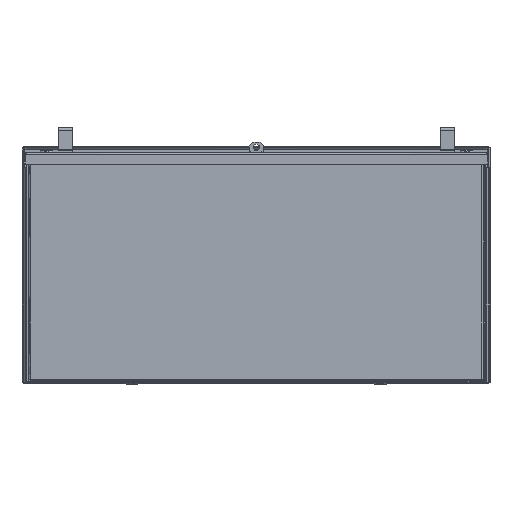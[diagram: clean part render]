
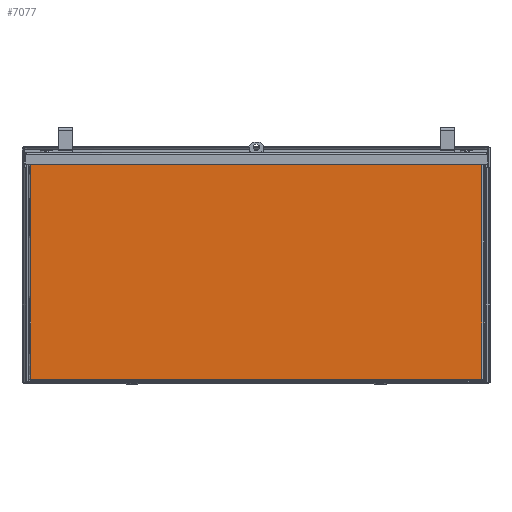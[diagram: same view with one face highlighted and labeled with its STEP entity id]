
A CAD part, front view. The second image highlights one B-rep face of the part: STEP entity #7077.
In plain terms, the highlighted free-form (B-spline) face has degree [1, 1] with [2, 2] control points.
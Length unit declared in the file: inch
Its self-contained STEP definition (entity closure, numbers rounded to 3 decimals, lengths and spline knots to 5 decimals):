
#5914=CARTESIAN_POINT('V66',(0.445,-0.055,
   11.77));
#5915=VERTEX_POINT('V66',#5914);
#5916=CARTESIAN_POINT('V91',(0.445,-0.055,
   11.81));
#5917=VERTEX_POINT('V91',#5916);
#5918=CARTESIAN_POINT('E111',(0.445,-0.055,
   11.77));
#5919=CARTESIAN_POINT('E111',(0.445,-0.055,
   11.81));
#5920=QUASI_UNIFORM_CURVE('E111',1,(#5918,#5919),.POLYLINE_FORM.,.F.,
   .U.);
#5921=EDGE_CURVE('E111',#5915,#5917,#5920,.T.);
#6062=CARTESIAN_POINT('V51',(0.06,-0.055,
   0.06));
#6063=VERTEX_POINT('V51',#6062);
#6077=CARTESIAN_POINT('V59',(0.06,-0.055,
   11.81));
#6078=VERTEX_POINT('V59',#6077);
#6079=CARTESIAN_POINT('E73',(0.06,-0.055,
   0.06));
#6080=CARTESIAN_POINT('E73',(0.06,-0.055,
   11.81));
#6081=QUASI_UNIFORM_CURVE('E73',1,(#6079,#6080),.POLYLINE_FORM.,.F.,
   .U.);
#6082=EDGE_CURVE('E73',#6063,#6078,#6081,.T.);
#6248=CARTESIAN_POINT('V92',(23.305,-0.055,
   11.81));
#6249=VERTEX_POINT('V92',#6248);
#6257=CARTESIAN_POINT('V67',(23.305,-0.055,
   11.77));
#6258=VERTEX_POINT('V67',#6257);
#6272=CARTESIAN_POINT('E114',(23.305,-0.055,
   11.81));
#6273=CARTESIAN_POINT('E114',(23.305,-0.055,
   11.77));
#6274=QUASI_UNIFORM_CURVE('E114',1,(#6272,#6273),.POLYLINE_FORM.,.F.,
   .U.);
#6275=EDGE_CURVE('E114',#6249,#6258,#6274,.T.);
#6293=CARTESIAN_POINT('V57',(23.69,-0.055,
   11.81));
#6294=VERTEX_POINT('V57',#6293);
#6295=CARTESIAN_POINT('E113',(23.69,-0.055,
   11.81));
#6296=CARTESIAN_POINT('E113',(23.305,-0.055,
   11.81));
#6297=QUASI_UNIFORM_CURVE('E113',1,(#6295,#6296),.POLYLINE_FORM.,.F.,
   .U.);
#6298=EDGE_CURVE('E113',#6294,#6249,#6297,.T.);
#6435=CARTESIAN_POINT('V50',(23.69,-0.055,
   0.06));
#6436=VERTEX_POINT('V50',#6435);
#6437=CARTESIAN_POINT('E70',(23.69,-0.055,
   11.81));
#6438=CARTESIAN_POINT('E70',(23.69,-0.055,
   0.06));
#6439=QUASI_UNIFORM_CURVE('E70',1,(#6437,#6438),.POLYLINE_FORM.,.F.,
   .U.);
#6440=EDGE_CURVE('E70',#6294,#6436,#6439,.T.);
#6517=CARTESIAN_POINT('E63',(23.69,-0.055,
   0.06));
#6518=CARTESIAN_POINT('E63',(0.06,-0.055,
   0.06));
#6519=QUASI_UNIFORM_CURVE('E63',1,(#6517,#6518),.POLYLINE_FORM.,.F.,
   .U.);
#6520=EDGE_CURVE('E63',#6436,#6063,#6519,.T.);
#6818=CARTESIAN_POINT('E112',(0.445,-0.055,
   11.81));
#6819=CARTESIAN_POINT('E112',(0.06,-0.055,
   11.81));
#6820=QUASI_UNIFORM_CURVE('E112',1,(#6818,#6819),.POLYLINE_FORM.,.F.,
   .U.);
#6821=EDGE_CURVE('E112',#5917,#6078,#6820,.T.);
#7012=CARTESIAN_POINT('V65',(11.422,-0.055,
   11.77));
#7013=VERTEX_POINT('V65',#7012);
#7014=CARTESIAN_POINT('E80',(11.422,-0.055,
   11.77));
#7015=CARTESIAN_POINT('E80',(0.445,-0.055,
   11.77));
#7016=QUASI_UNIFORM_CURVE('E80',1,(#7014,#7015),.POLYLINE_FORM.,.F.,
   .U.);
#7017=EDGE_CURVE('E80',#7013,#5915,#7016,.T.);
#7036=CARTESIAN_POINT('F29',(23.69,-0.055,
   0.06));
#7037=CARTESIAN_POINT('F29',(23.69,-0.055,
   11.81));
#7038=CARTESIAN_POINT('F29',(0.06,-0.055,
   0.06));
#7039=CARTESIAN_POINT('F29',(0.06,-0.055,
   11.81));
#7040=B_SPLINE_SURFACE_WITH_KNOTS('F29',1,1,((#7036,#7038),(#7037,
   #7039)),.PLANE_SURF.,.F.,.F.,.U.,(2,2),(2,2),(
   0.0001,0.9999),(0.0001,
   2.01076),.UNSPECIFIED.);
#7041=CARTESIAN_POINT('V89',(12.328,-0.055,
   11.769));
#7042=VERTEX_POINT('V89',#7041);
#7043=CARTESIAN_POINT('V90',(11.422,-0.055,
   11.769));
#7044=VERTEX_POINT('V90',#7043);
#7045=CARTESIAN_POINT('E109',(12.328,-0.055,
   11.769));
#7046=CARTESIAN_POINT('E109',(11.422,-0.055,
   11.769));
#7047=QUASI_UNIFORM_CURVE('E109',1,(#7045,#7046),.POLYLINE_FORM.,.F.,
   .U.);
#7048=EDGE_CURVE('E109',#7042,#7044,#7047,.T.);
#7049=ORIENTED_EDGE('E109',*,*,#7048,.T.);
#7050=CARTESIAN_POINT('E110',(11.422,-0.055,
   11.769));
#7051=CARTESIAN_POINT('E110',(11.422,-0.055,
   11.77));
#7052=QUASI_UNIFORM_CURVE('E110',1,(#7050,#7051),.POLYLINE_FORM.,.F.,
   .U.);
#7053=EDGE_CURVE('E110',#7044,#7013,#7052,.T.);
#7054=ORIENTED_EDGE('E110',*,*,#7053,.T.);
#7055=ORIENTED_EDGE('E80',*,*,#7017,.T.);
#7056=ORIENTED_EDGE('E111',*,*,#5921,.T.);
#7057=ORIENTED_EDGE('E112',*,*,#6821,.T.);
#7058=ORIENTED_EDGE('E73',*,*,#6082,.F.);
#7059=ORIENTED_EDGE('E63',*,*,#6520,.F.);
#7060=ORIENTED_EDGE('E70',*,*,#6440,.F.);
#7061=ORIENTED_EDGE('E113',*,*,#6298,.T.);
#7062=ORIENTED_EDGE('F62',*,*,#6275,.T.);
#7063=CARTESIAN_POINT('V68',(12.328,-0.055,
   11.77));
#7064=VERTEX_POINT('V68',#7063);
#7065=CARTESIAN_POINT('E82',(23.305,-0.055,
   11.77));
#7066=CARTESIAN_POINT('E82',(12.328,-0.055,
   11.77));
#7067=QUASI_UNIFORM_CURVE('E82',1,(#7065,#7066),.POLYLINE_FORM.,.F.,
   .U.);
#7068=EDGE_CURVE('E82',#6258,#7064,#7067,.T.);
#7069=ORIENTED_EDGE('E82',*,*,#7068,.T.);
#7070=CARTESIAN_POINT('E115',(12.328,-0.055,
   11.77));
#7071=CARTESIAN_POINT('E115',(12.328,-0.055,
   11.769));
#7072=QUASI_UNIFORM_CURVE('E115',1,(#7070,#7071),.POLYLINE_FORM.,.F.,
   .U.);
#7073=EDGE_CURVE('E115',#7064,#7042,#7072,.T.);
#7074=ORIENTED_EDGE('E115',*,*,#7073,.T.);
#7075=EDGE_LOOP('F29',(#7049,#7054,#7055,#7056,#7057,#7058,#7059,
   #7060,#7061,#7062,#7069,#7074));
#7076=FACE_OUTER_BOUND('F29',#7075,.T.);
#7077=ADVANCED_FACE('F29',(#7076),#7040,.T.);
